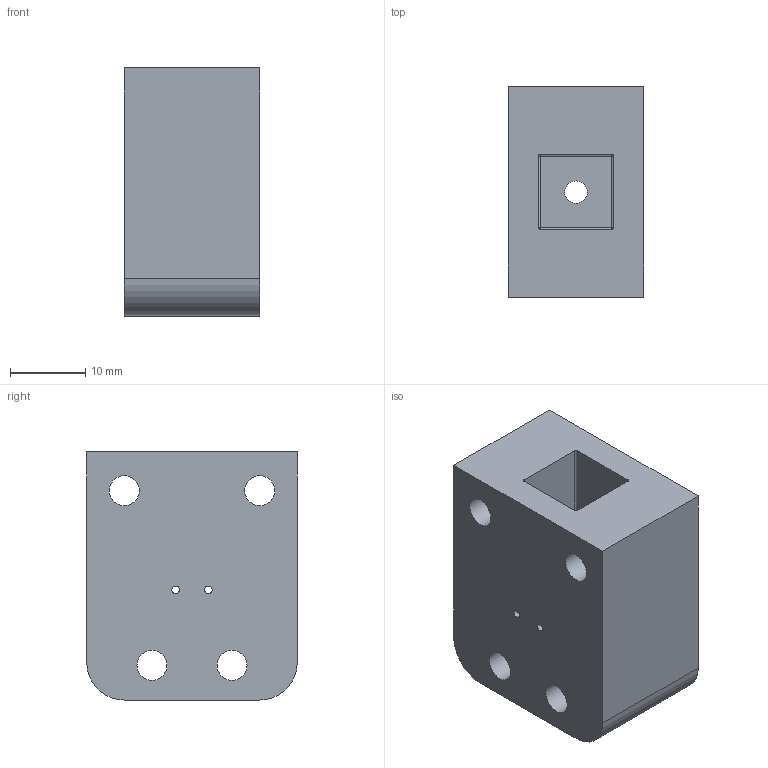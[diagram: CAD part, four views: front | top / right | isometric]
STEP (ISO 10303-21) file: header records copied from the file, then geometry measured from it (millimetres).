
FILE_DESCRIPTION( ('This file contains a STEP AP42 implementation' ,'as created by ZW3D STEP Interface translator.') ,'2;1' );
FILE_NAME( 'ArmBase.stp' ,'24 9 3.133459', (''), ('ZWCAD Software Co.'), 'Version 1.0', 'ZW3D to STEP translator', '' );
FILE_SCHEMA(('AUTOMOTIVE_DESIGN { 1 0 10303 214 1 1 1 1 }'));
Length unit declared in the file: millimetre
Products named in the file (2): 0; ArmBase
Bounding box: 18 x 28 x 33 mm (x, y, z)
Volume: 12966.8 mm3; surface area: 5839.8 mm2
Topology: 1 solids, 1 shells, 34 faces, 83 edges, 52 vertices
Faces by surface type: cylinder 19, plane 11, sphere 4
Full cylindrical faces by diameter (mm): 1 x4, 3 x1, 4 x4
Entity records: 1108 total; most frequent: DIRECTION 193, CARTESIAN_POINT 168, ORIENTED_EDGE 162, EDGE_CURVE 81, AXIS2_PLACEMENT_3D 75, EDGE_LOOP 53, VERTEX_POINT 50, VECTOR 43
